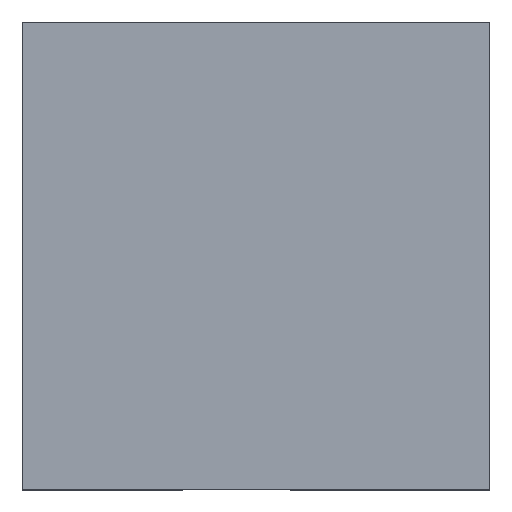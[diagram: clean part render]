
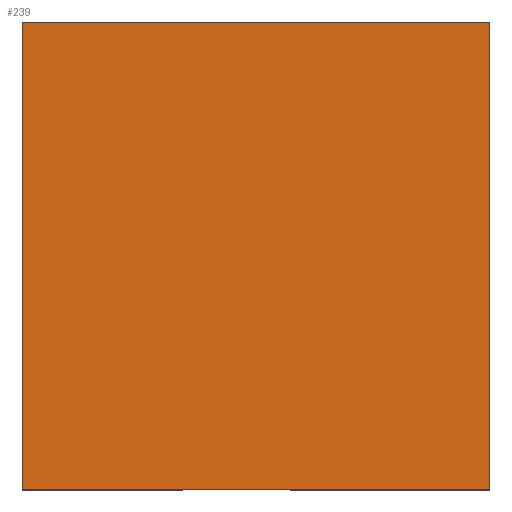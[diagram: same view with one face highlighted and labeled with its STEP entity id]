
A CAD part, top view. The second image highlights one B-rep face of the part: STEP entity #239.
In plain terms, the highlighted planar face has unit normal (0, 0, 1).
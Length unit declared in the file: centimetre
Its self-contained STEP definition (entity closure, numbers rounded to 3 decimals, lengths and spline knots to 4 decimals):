
#7 = DIRECTION ( 'NONE',  ( 1., 0., 0. ) ) ;
#50 = CARTESIAN_POINT ( 'NONE',  ( 1000., 1000., 1000. ) ) ;
#75 = CARTESIAN_POINT ( 'NONE',  ( 1000., 1000., 1000. ) ) ;
#113 = VECTOR ( 'NONE', #531, 100. ) ;
#141 = CARTESIAN_POINT ( 'NONE',  ( 0., 1000., 1000. ) ) ;
#151 = VERTEX_POINT ( 'NONE', #265 ) ;
#152 = VERTEX_POINT ( 'NONE', #350 ) ;
#184 = CARTESIAN_POINT ( 'NONE',  ( 0., 1000., 1000. ) ) ;
#194 = DIRECTION ( 'NONE',  ( 0., -1., 0. ) ) ;
#239 = ADVANCED_FACE ( 'NONE', ( #545 ), #337, .T. ) ;
#250 = ORIENTED_EDGE ( 'NONE', *, *, #1030, .T. ) ;
#265 = CARTESIAN_POINT ( 'NONE',  ( 1000., 0., 1000. ) ) ;
#279 = CARTESIAN_POINT ( 'NONE',  ( 0., 0., 1000. ) ) ;
#337 = PLANE ( 'NONE',  #513 ) ;
#350 = CARTESIAN_POINT ( 'NONE',  ( 0., 0., 1000. ) ) ;
#352 = ORIENTED_EDGE ( 'NONE', *, *, #963, .T. ) ;
#366 = EDGE_LOOP ( 'NONE', ( #778, #415, #352, #250 ) ) ;
#415 = ORIENTED_EDGE ( 'NONE', *, *, #509, .T. ) ;
#479 = EDGE_CURVE ( 'NONE', #515, #152, #745, .T. ) ;
#480 = VECTOR ( 'NONE', #194, 100. ) ;
#509 = EDGE_CURVE ( 'NONE', #152, #151, #541, .T. ) ;
#513 = AXIS2_PLACEMENT_3D ( 'NONE', #1188, #1098, #732 ) ;
#515 = VERTEX_POINT ( 'NONE', #184 ) ;
#531 = DIRECTION ( 'NONE',  ( -1., 0., 0. ) ) ;
#541 = LINE ( 'NONE', #279, #1055 ) ;
#545 = FACE_OUTER_BOUND ( 'NONE', #366, .T. ) ;
#616 = DIRECTION ( 'NONE',  ( 0., 1., 0. ) ) ;
#732 = DIRECTION ( 'NONE',  ( 1., 0., 0. ) ) ;
#745 = LINE ( 'NONE', #1202, #480 ) ;
#778 = ORIENTED_EDGE ( 'NONE', *, *, #479, .T. ) ;
#797 = LINE ( 'NONE', #50, #828 ) ;
#828 = VECTOR ( 'NONE', #616, 100. ) ;
#963 = EDGE_CURVE ( 'NONE', #151, #1054, #797, .T. ) ;
#991 = LINE ( 'NONE', #141, #113 ) ;
#1030 = EDGE_CURVE ( 'NONE', #1054, #515, #991, .T. ) ;
#1054 = VERTEX_POINT ( 'NONE', #75 ) ;
#1055 = VECTOR ( 'NONE', #7, 100. ) ;
#1098 = DIRECTION ( 'NONE',  ( 0., 0., 1. ) ) ;
#1188 = CARTESIAN_POINT ( 'NONE',  ( 0., 0., 1000. ) ) ;
#1202 = CARTESIAN_POINT ( 'NONE',  ( 0., 1000., 1000. ) ) ;
